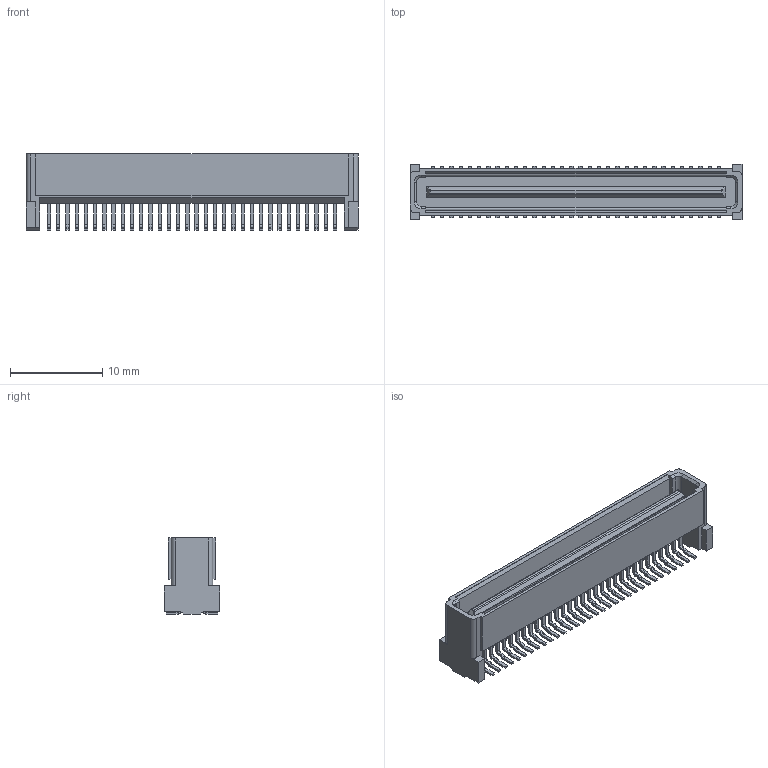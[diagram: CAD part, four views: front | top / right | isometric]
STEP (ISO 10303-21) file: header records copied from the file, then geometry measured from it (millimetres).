
FILE_DESCRIPTION (( 'STEP AP214' ), '1' );
FILE_NAME ('105015064002.STEP', '2023-06-28T05:12:41', ( '' ), ( '' ), 'SwSTEP 2.0', 'SolidWorks 2021', '' );
FILE_SCHEMA (( 'AUTOMOTIVE_DESIGN' ));
Length unit declared in the file: millimetre
Products named in the file (1): 105015064002
Bounding box: 36 x 6 x 8.25 mm (x, y, z)
Volume: 583.9 mm3; surface area: 1707.7 mm2
Topology: 1 solids, 1 shells, 1458 faces, 4138 edges, 2744 vertices
Faces by surface type: plane 910, cylinder 536, bspline 8, cone 4
Entity records: 48847 total; most frequent: CARTESIAN_POINT 9952, ORIENTED_EDGE 8268, DIRECTION 8056, EDGE_CURVE 4134, VECTOR 3058, LINE 3058, VERTEX_POINT 2744, AXIS2_PLACEMENT_3D 2499
